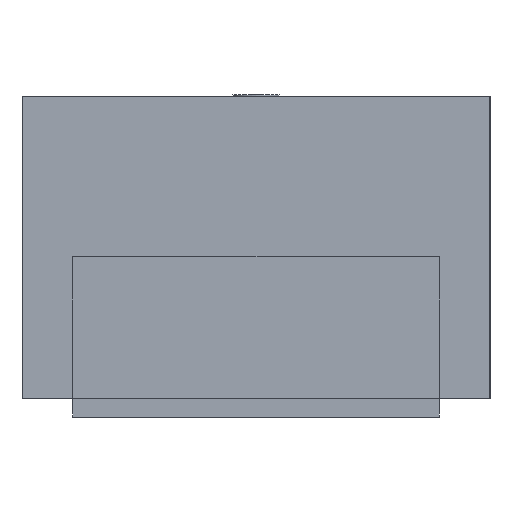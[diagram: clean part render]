
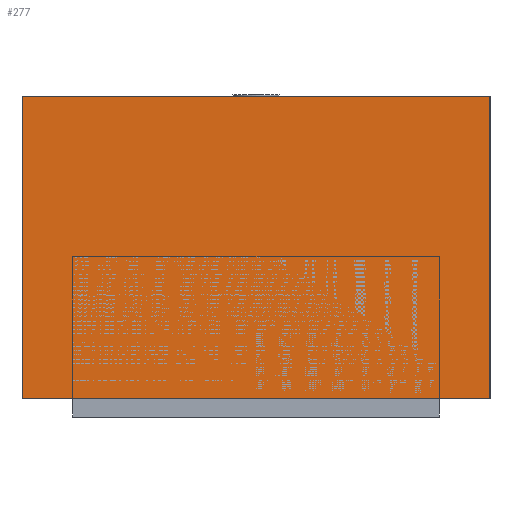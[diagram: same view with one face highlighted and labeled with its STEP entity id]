
A CAD part, left-side view. The second image highlights one B-rep face of the part: STEP entity #277.
In plain terms, the highlighted planar face has unit normal (-1, 0, 0).
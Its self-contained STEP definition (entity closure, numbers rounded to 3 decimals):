
#143=CARTESIAN_POINT('',(-1.295,-0.648,0.051));
#142=VERTEX_POINT('',#143);
#161=CARTESIAN_POINT('',(-1.295,-0.648,0.889));
#160=VERTEX_POINT('',#161);
#169=EDGE_CURVE('',#142,#160,#174,.T.);
#174=LINE('',#143,#176);
#176=VECTOR('',#177,0.838);
#177=DIRECTION('',(0.0,0.0,1.0));
#239=CARTESIAN_POINT('',(-1.295,0.648,0.051));
#238=VERTEX_POINT('',#239);
#249=CARTESIAN_POINT('',(-1.295,0.648,0.889));
#248=VERTEX_POINT('',#249);
#247=EDGE_CURVE('',#248,#238,#252,.T.);
#252=LINE('',#249,#254);
#254=VECTOR('',#255,0.838);
#255=DIRECTION('',(0.0,0.0,-1.0));
#277=ADVANCED_FACE('',(#283),#278,.T.);
#278=PLANE('',#279);
#279=AXIS2_PLACEMENT_3D('',#280,#281,#282);
#280=CARTESIAN_POINT('',(-1.295,0.648,0.051));
#281=DIRECTION('',(-1.0,0.0,0.0));
#282=DIRECTION('',(0.,0.,1.));
#283=FACE_OUTER_BOUND('',#284,.T.);
#284=EDGE_LOOP('',(#285,#295,#305,#315));
#286=EDGE_CURVE('',#142,#238,#291,.T.);
#291=LINE('',#143,#293);
#293=VECTOR('',#294,1.295);
#294=DIRECTION('',(0.0,1.0,0.0));
#285=ORIENTED_EDGE('',*,*,#286,.F.);
#295=ORIENTED_EDGE('',*,*,#169,.T.);
#306=EDGE_CURVE('',#248,#160,#311,.T.);
#311=LINE('',#249,#313);
#313=VECTOR('',#314,1.295);
#314=DIRECTION('',(0.0,-1.0,0.0));
#305=ORIENTED_EDGE('',*,*,#306,.F.);
#315=ORIENTED_EDGE('',*,*,#247,.T.);
